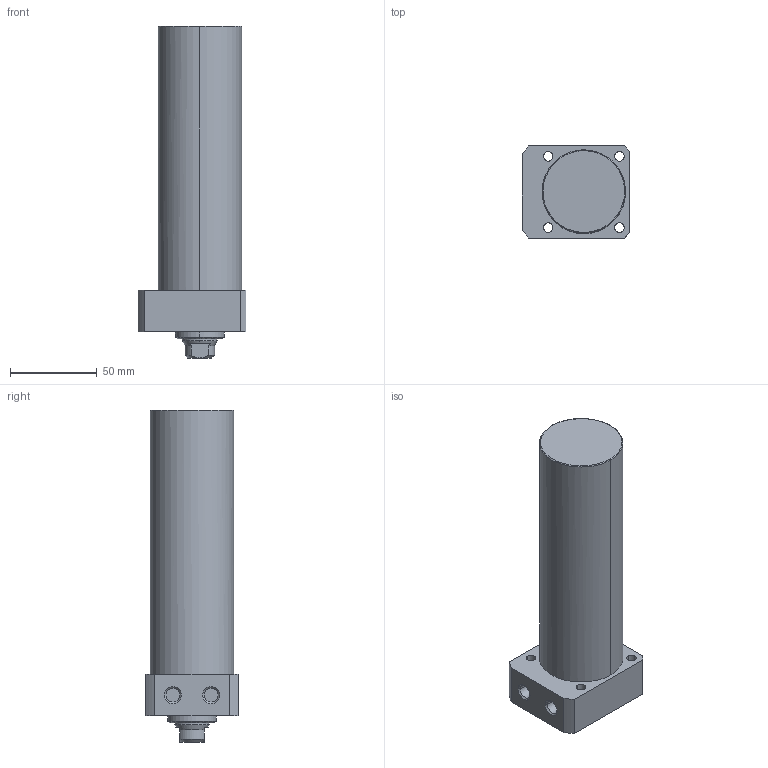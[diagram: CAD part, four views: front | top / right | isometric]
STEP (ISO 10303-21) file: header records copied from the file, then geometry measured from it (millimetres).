
FILE_DESCRIPTION((' '),'2;1');
FILE_NAME( 'TLLR-048CA-125.STEP.stp', '2025-10-24T16:34:31', (' '), ('--- Datakit www.datakit.com---'), ' Datakit CrossCadWare V2024.1 Dec 21 2023', 'Mastercam 2025', ' ');
FILE_SCHEMA(('AUTOMOTIVE_DESIGN { 1 0 10303 214 1 1 1 1 }'));
Length unit declared in the file: millimetre
Products named in the file (1): TLLR-048CA-125
Bounding box: 62 x 53 x 191 mm (x, y, z)
Volume: 353402.8 mm3; surface area: 38284.5 mm2
Topology: 1 solids, 1 shells, 63 faces, 177 edges, 122 vertices
Faces by surface type: cylinder 28, plane 19, cone 14, torus 2
Entity records: 2172 total; most frequent: CARTESIAN_POINT 409, DIRECTION 400, ORIENTED_EDGE 350, EDGE_CURVE 175, AXIS2_PLACEMENT_3D 169, VERTEX_POINT 122, CIRCLE 105, EDGE_LOOP 79
